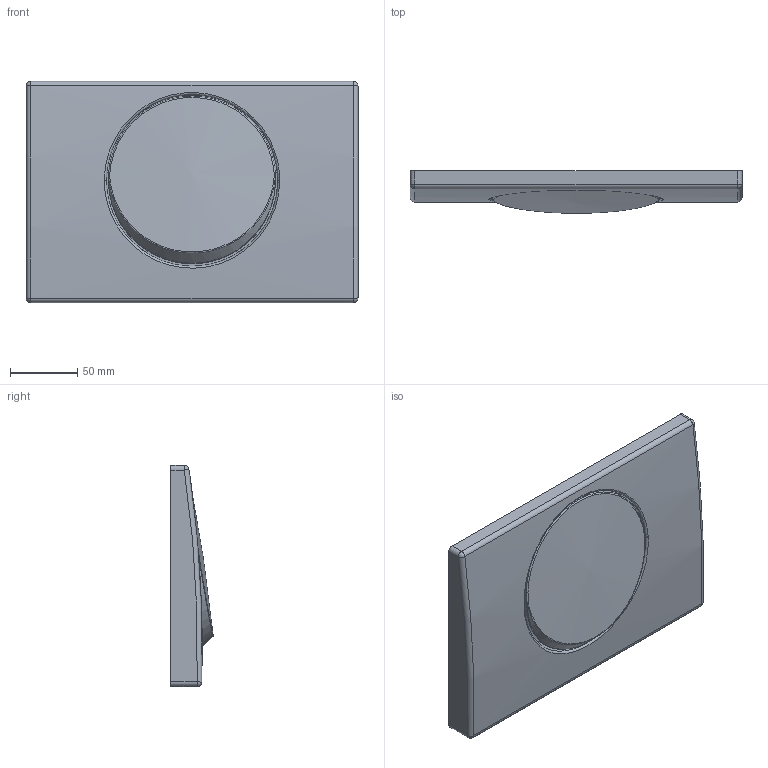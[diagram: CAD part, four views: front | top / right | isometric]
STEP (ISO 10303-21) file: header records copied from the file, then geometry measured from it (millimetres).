
FILE_DESCRIPTION(/* description */ (''),/* implementation_level */ '2;1');
FILE_NAME(/* name */ 'C:\Planerdaten\Export PLA\115.101.00.5\stp\115108.stp',/* time_stamp */ '2021-10-08T09:24:15+02:00',/* author */ ('JANAN'),/* organization */ (''),/* preprocessor_version */ 'ST-DEVELOPER v16.13',/* originating_system */ 'Autodesk Inventor 2018',/* authorisation */ '');
FILE_SCHEMA (('AUTOMOTIVE_DESIGN { 1 0 10303 214 3 1 1 }'));
Length unit declared in the file: millimetre
Products named in the file (1): tmp2C17.tmp
Bounding box: 246 x 31.35 x 164 mm (x, y, z)
Volume: 836947.5 mm3; surface area: 131195.8 mm2
Topology: 2 solids, 2 shells, 35 faces, 71 edges, 41 vertices
Faces by surface type: bspline 10, cylinder 9, plane 7, sphere 6, torus 2, cone 1
Full cylindrical faces by diameter (mm): 124 x1, 127 x1
Entity records: 3642 total; most frequent: CARTESIAN_POINT 2868, DIRECTION 152, ORIENTED_EDGE 136, EDGE_CURVE 68, AXIS2_PLACEMENT_3D 68, CIRCLE 42, VERTEX_POINT 40, EDGE_LOOP 38
